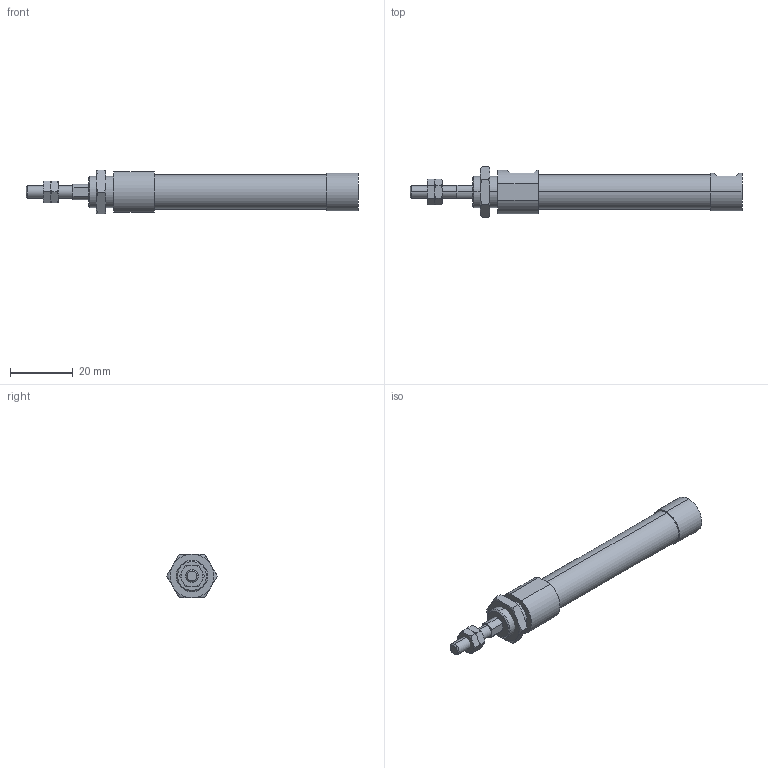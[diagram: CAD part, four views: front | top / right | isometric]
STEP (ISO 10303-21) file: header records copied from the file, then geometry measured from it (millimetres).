
FILE_DESCRIPTION (( 'STEP AP203' ), '1' );
FILE_NAME ('ZGU2-10-30-N.STEP', '2016-03-31T00:52:33', ( '' ), ( '' ), 'SwSTEP 2.0', 'SolidWorks 2014', '' );
FILE_SCHEMA (( 'CONFIG_CONTROL_DESIGN' ));
Length unit declared in the file: millimetre
Products named in the file (4): ZGU2-10-30; ZGU2-10-30-N
Assembly tree (4 placements, depth 2):
  ZGU2-10-30-N
    ZGU2-10-30
    (unnamed)  x2
    (unnamed)
Bounding box: 106 x 16.17 x 14 mm (x, y, z)
Volume: 9404.6 mm3; surface area: 4622.8 mm2
Topology: 4 solids, 4 shells, 108 faces, 235 edges, 140 vertices
Faces by surface type: plane 41, torus 36, cylinder 23, cone 8
Entity records: 3047 total; most frequent: CARTESIAN_POINT 792, DIRECTION 387, ORIENTED_EDGE 366, EDGE_CURVE 183, AXIS2_PLACEMENT_3D 163, VERTEX_POINT 112, EDGE_LOOP 99, ADVANCED_FACE 86
